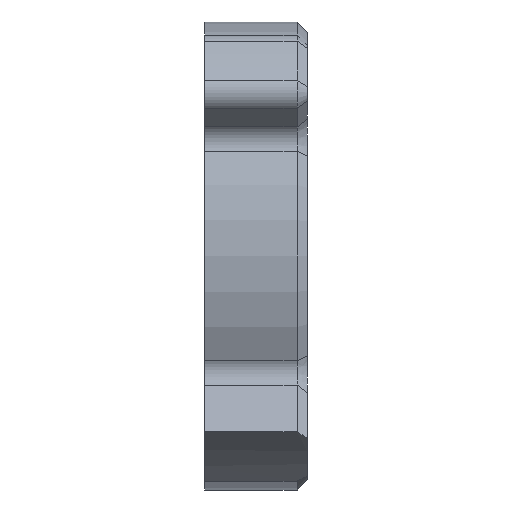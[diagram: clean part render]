
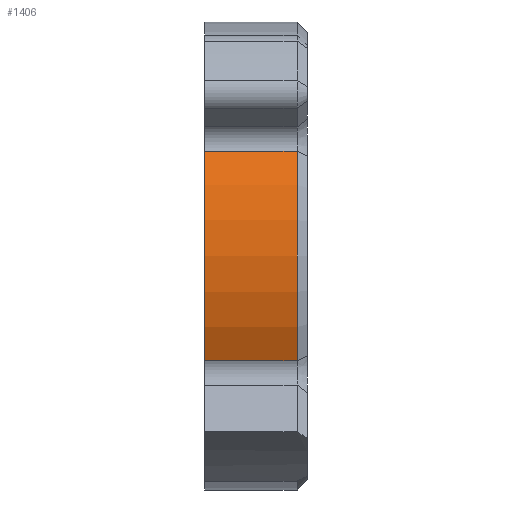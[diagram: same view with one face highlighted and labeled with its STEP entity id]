
A CAD part, left-side view. The second image highlights one B-rep face of the part: STEP entity #1406.
In plain terms, the highlighted cylindrical face has radius 11.4 mm (diameter 22.8 mm), a partial arc.
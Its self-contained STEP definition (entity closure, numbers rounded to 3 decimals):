
#52=CYLINDRICAL_SURFACE('',#1593,11.4);
#134=FACE_OUTER_BOUND('',#226,.T.);
#226=EDGE_LOOP('',(#1191,#1192,#1193,#1194));
#345=LINE('',#2426,#463);
#347=LINE('',#2429,#465);
#463=VECTOR('',#1984,10.);
#465=VECTOR('',#1988,10.);
#508=CIRCLE('',#1474,11.4);
#558=CIRCLE('',#1544,11.4);
#598=VERTEX_POINT('',#2129);
#599=VERTEX_POINT('',#2131);
#674=VERTEX_POINT('',#2311);
#675=VERTEX_POINT('',#2315);
#726=EDGE_CURVE('',#598,#599,#508,.T.);
#819=EDGE_CURVE('',#675,#674,#558,.T.);
#875=EDGE_CURVE('',#674,#598,#345,.T.);
#877=EDGE_CURVE('',#599,#675,#347,.T.);
#1191=ORIENTED_EDGE('',*,*,#819,.F.);
#1192=ORIENTED_EDGE('',*,*,#877,.F.);
#1193=ORIENTED_EDGE('',*,*,#726,.F.);
#1194=ORIENTED_EDGE('',*,*,#875,.F.);
#1406=ADVANCED_FACE('',(#134),#52,.T.);
#1474=AXIS2_PLACEMENT_3D('',#2132,#1666,#1667);
#1544=AXIS2_PLACEMENT_3D('',#2317,#1845,#1846);
#1593=AXIS2_PLACEMENT_3D('',#2428,#1986,#1987);
#1666=DIRECTION('center_axis',(0.,1.,0.));
#1667=DIRECTION('ref_axis',(-0.894,0.,-0.447));
#1845=DIRECTION('center_axis',(0.,-1.,0.));
#1846=DIRECTION('ref_axis',(-0.863,0.,-0.506));
#1984=DIRECTION('',(0.,1.,0.));
#1986=DIRECTION('center_axis',(0.,1.,0.));
#1987=DIRECTION('ref_axis',(-0.863,0.,-0.506));
#1988=DIRECTION('',(0.,-1.,0.));
#2129=CARTESIAN_POINT('',(-16.312,5.,-23.425));
#2131=CARTESIAN_POINT('',(-16.312,5.,-13.229));
#2132=CARTESIAN_POINT('Origin',(-6.116,5.,-18.327));
#2311=CARTESIAN_POINT('',(-16.312,0.5,-23.425));
#2315=CARTESIAN_POINT('',(-16.312,0.5,-13.229));
#2317=CARTESIAN_POINT('Origin',(-6.116,0.5,-18.327));
#2426=CARTESIAN_POINT('',(-16.312,0.,-23.425));
#2428=CARTESIAN_POINT('Origin',(-6.116,0.,-18.327));
#2429=CARTESIAN_POINT('',(-16.312,0.,-13.229));
